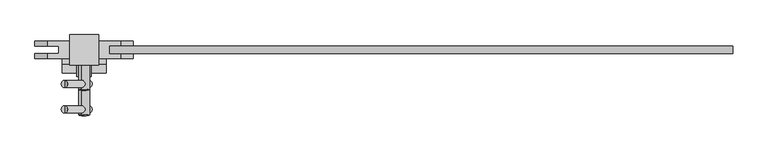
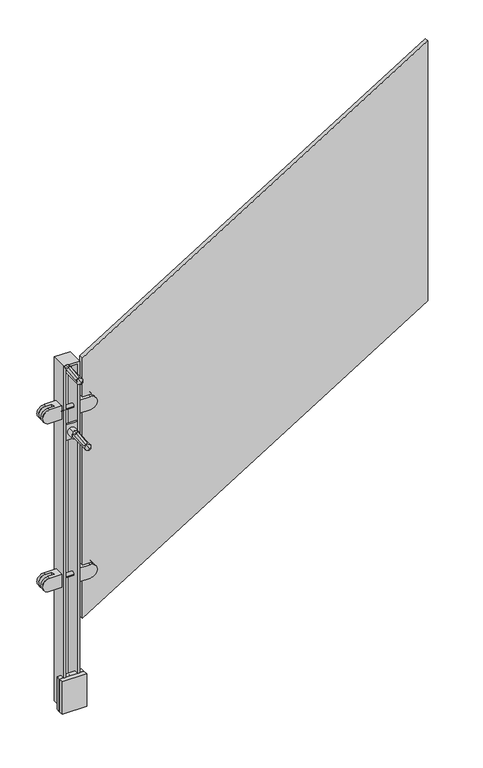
"""IFC4 building model written with IfcOpenShell, lengths in millimetres: proxy geometry, LIVERS_ICN - Glass Panel : LIVERS_ICN - Glass Panel."""

from ifc_helpers import new_model, si_unit, point, frame, origin, place, context, project, spatial, polyline, circle_curve, ellipse_curve, trimmed, outline, extrude, faceted_brep, source, transform, mapped, element, save
from ifc_brep_helpers import plane_surface, cylinder_surface, revolved_surface, advanced_brep


def building_element_proxy_19aa9ecd(model_context):
    return source(origin(), model_context, "Body", "SolidModel", [
        advanced_brep(
        [(37.9350002, 60.3249609, 643.1159168), (44.6649748, 60.3249609, 632.3457059), (51.3949495, 60.3249609, 621.5754951), (37.9350002, 38.0999609, 643.1159168), (51.3949495, 38.0999609, 621.5754951), (44.6649748, 38.0999609, 632.3457059)],
        [
            (0, 1),
            (1, 2),
            (2, 0, circle_curve(frame((44.6649748, 60.3249609, 632.3457059), z_axis=(0.0, 1.0, 0.0), x_axis=(0.5299192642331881, 0.0, -0.8480480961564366)), 12.7)),
            (0, 2, circle_curve(frame((44.6649748, 60.3249609, 632.3457059), z_axis=(0.0, 1.0, 0.0), x_axis=(0.5299192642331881, 0.0, -0.8480480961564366)), 12.7)),
            (3, 0),
            (2, 4),
            (4, 3, circle_curve(frame((44.6649748, 38.0999609, 632.3457059), z_axis=(0.0, 1.0, 0.0), x_axis=(0.5299192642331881, 0.0, -0.8480480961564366)), 12.7)),
            (3, 4, circle_curve(frame((44.6649748, 38.0999609, 632.3457059), z_axis=(0.0, 1.0, 0.0), x_axis=(0.5299192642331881, 0.0, -0.8480480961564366)), 12.7)),
            (5, 3),
            (4, 5),
        ],
        [
            plane_surface(frame((44.6649748, 60.3249609, 632.3457059), z_axis=(0.0, 1.0000000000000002, 0.0), x_axis=(0.5299192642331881, 0.0, -0.8480480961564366))),
            cylinder_surface(frame((44.6649748, 69.3828283, 632.3457059), z_axis=(0.0, -1.0, 0.0), x_axis=(0.5299192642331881, 0.0, -0.8480480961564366)), 12.7),
            plane_surface(frame((44.6649748, 38.0999609, 632.3457059), z_axis=(0.0, -1.0000000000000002, 0.0), x_axis=(0.5299192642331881, 0.0, -0.8480480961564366))),
        ],
        [
            (0, [[1, 2, 3]]),
            (0, [[-2, -1, 4]]),
            (1, [[5, -3, 6, 7]]),
            (1, [[-6, -4, -5, 8]]),
            (2, [[9, -7, 10]]),
            (2, [[-10, -8, -9]]),
        ],
    ),
        advanced_brep(
        [(10.3973046, -25.4004131, 687.1854419), (10.3973046, -19.0504161, 687.1854419), (10.3973046, -12.7004191, 687.1854419), (53.0007299, -25.4004131, 619.0057093), (53.0007299, -12.7004191, 619.0057093), (53.0007299, -19.0504161, 619.0057093)],
        [
            (0, 1),
            (1, 2),
            (2, 0, circle_curve(frame((10.3973046, -19.0504161, 687.1854419), z_axis=(-0.5299192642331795, 0.0, 0.848048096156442), x_axis=(0.0, 1.0, 0.0)), 6.349997)),
            (0, 2, circle_curve(frame((10.3973046, -19.0504161, 687.1854419), z_axis=(-0.5299192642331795, 0.0, 0.848048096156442), x_axis=(0.0, 1.0, 0.0)), 6.349997)),
            (3, 0),
            (2, 4),
            (4, 3, circle_curve(frame((53.0007299, -19.0504161, 619.0057093), z_axis=(-0.5299192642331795, 0.0, 0.848048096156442), x_axis=(0.0, 1.0, 0.0)), 6.349997)),
            (3, 4, circle_curve(frame((53.0007299, -19.0504161, 619.0057093), z_axis=(-0.5299192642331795, 0.0, 0.848048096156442), x_axis=(0.0, 1.0, 0.0)), 6.349997)),
            (5, 3),
            (4, 5),
        ],
        [
            plane_surface(frame((10.3973046, -19.0504161, 687.1854419), z_axis=(-0.5299192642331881, 0.0, 0.8480480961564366), x_axis=(0.0, 1.0, 0.0))),
            cylinder_surface(frame((3.0573892, -19.0504161, 698.931762), z_axis=(0.5299192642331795, 0.0, -0.848048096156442), x_axis=(0.0, 1.0, 0.0)), 6.349997),
            plane_surface(frame((53.0007299, -19.0504161, 619.0057093), z_axis=(0.5299192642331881, 0.0, -0.8480480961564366), x_axis=(0.0, 1.0, 0.0))),
        ],
        [
            (0, [[1, 2, 3]]),
            (0, [[-2, -1, 4]]),
            (1, [[5, -3, 6, 7]]),
            (1, [[-6, -4, -5, 8]]),
            (2, [[9, -7, 10]]),
            (2, [[-10, -8, -9]]),
        ],
    ),
        advanced_brep(
        [(44.6649748, -30.1375464, 632.3457059), (39.6174939, -28.5500464, 640.4233641), (49.7124558, -28.5500464, 624.2680478), (39.6174939, 38.0999609, 640.4233641), (44.6649748, 38.0999609, 632.3457059), (49.7124558, 38.0999609, 624.2680478)],
        [
            (0, 1, circle_curve(frame((44.6649748, -0.7687964, 632.3457059), z_axis=(-0.848048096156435, 0.0, -0.5299192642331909), x_axis=(0.0, 1.0, 0.0)), 29.36875)),
            (1, 2, circle_curve(frame((44.6649748, -28.5500464, 632.3457059), z_axis=(0.0, -1.0, 0.0), x_axis=(0.5299192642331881, 0.0, -0.8480480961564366)), 9.525)),
            (2, 0, circle_curve(frame((44.6649748, -0.7687964, 632.3457059), z_axis=(-0.8480480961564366, 0.0, -0.5299192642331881), x_axis=(0.0, 1.0, 0.0)), 29.36875)),
            (2, 1, circle_curve(frame((44.6649748, -28.5500464, 632.3457059), z_axis=(0.0, -1.0, 0.0), x_axis=(0.5299192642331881, 0.0, -0.8480480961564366)), 9.525)),
            (3, 4),
            (4, 5),
            (5, 3, circle_curve(frame((44.6649748, 38.0999609, 632.3457059), z_axis=(0.0, 1.0, 0.0), x_axis=(0.5299192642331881, 0.0, -0.8480480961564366)), 9.525)),
            (3, 5, circle_curve(frame((44.6649748, 38.0999609, 632.3457059), z_axis=(0.0, 1.0, 0.0), x_axis=(0.5299192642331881, 0.0, -0.8480480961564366)), 9.525)),
            (1, 3),
            (5, 2),
        ],
        [
            revolved_surface(trimmed(ellipse_curve(frame((44.6649748, -0.7687964, 632.3457059), z_axis=(-0.8480480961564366, 0.0, -0.5299192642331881), x_axis=(0.0, 1.0, 0.0)), 29.36875, 29.36875), [point((49.7124558, -28.5500464, 624.2680478))], [point((44.6649748, -30.1375464, 632.3457059))], True, "CARTESIAN"), (44.6649748, 30.3031204, 632.3457059), (0.0, -1.0, 0.0)),
            plane_surface(frame((44.6649748, 38.0999609, 632.3457059), z_axis=(0.0, 1.0000000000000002, 0.0), x_axis=(0.5299192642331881, 0.0, -0.8480480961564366))),
            cylinder_surface(frame((44.6649748, 30.3031204, 632.3457059), z_axis=(0.0, -1.0, 0.0), x_axis=(0.5299192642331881, 0.0, -0.8480480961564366)), 9.525),
        ],
        [
            (0, [[1, 2, 3]]),
            (0, [[-3, 4, -1]]),
            (1, [[5, 6, 7]]),
            (1, [[-6, -5, 8]]),
            (2, [[9, -7, 10, -2]]),
            (2, [[-10, -8, -9, -4]]),
        ],
    ),
        extrude(outline(polyline([(63.7149748, 66.6749609), (63.7149748, 60.3249609), (25.6149748, 60.3249609), (25.6149748, 66.6749609), (63.7149748, 66.6749609)])), frame((0.0, 0.0, 606.9457059), z_axis=(0.0, 0.0, 1.0), x_axis=(1.0, 0.0, 0.0)), (0.0, 0.0, 1.0), 50.8),
        advanced_brep(
        [(37.9350002, 15.875, 450.9648186), (44.6649748, 15.875, 440.1946077), (51.3949495, 15.875, 429.4243969), (37.9350002, -6.35, 450.9648186), (51.3949495, -6.35, 429.4243969), (44.6649748, -6.35, 440.1946077)],
        [
            (0, 1),
            (1, 2),
            (2, 0, circle_curve(frame((44.6649748, 15.875, 440.1946077), z_axis=(0.0, 1.0, 0.0), x_axis=(0.5299192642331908, 0.0, -0.848048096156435)), 12.7)),
            (0, 2, circle_curve(frame((44.6649748, 15.875, 440.1946077), z_axis=(0.0, 1.0, 0.0), x_axis=(0.5299192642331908, 0.0, -0.848048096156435)), 12.7)),
            (3, 0),
            (2, 4),
            (4, 3, circle_curve(frame((44.6649748, -6.35, 440.1946077), z_axis=(0.0, 1.0, 0.0), x_axis=(0.5299192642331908, 0.0, -0.848048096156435)), 12.7)),
            (3, 4, circle_curve(frame((44.6649748, -6.35, 440.1946077), z_axis=(0.0, 1.0, 0.0), x_axis=(0.5299192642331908, 0.0, -0.848048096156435)), 12.7)),
            (5, 3),
            (4, 5),
        ],
        [
            plane_surface(frame((44.6649748, 15.875, 440.1946077), z_axis=(0.0, 1.0000000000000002, 0.0), x_axis=(0.5299192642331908, 0.0, -0.848048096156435))),
            cylinder_surface(frame((44.6649748, 24.9328674, 440.1946077), z_axis=(0.0, -1.0, 0.0), x_axis=(0.5299192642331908, 0.0, -0.848048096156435)), 12.7),
            plane_surface(frame((44.6649748, -6.35, 440.1946077), z_axis=(0.0, -1.0000000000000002, 0.0), x_axis=(0.5299192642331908, 0.0, -0.848048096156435))),
        ],
        [
            (0, [[1, 2, 3]]),
            (0, [[-2, -1, 4]]),
            (1, [[5, -3, 6, 7]]),
            (1, [[-6, -4, -5, 8]]),
            (2, [[9, -7, 10]]),
            (2, [[-10, -8, -9]]),
        ],
    ),
        advanced_brep(
        [(10.3973046, -69.850374, 495.0343437), (10.3973046, -63.500377, 495.0343437), (10.3973046, -57.15038, 495.0343437), (53.0007299, -69.850374, 426.8546111), (53.0007299, -57.15038, 426.8546111), (53.0007299, -63.500377, 426.8546111)],
        [
            (0, 1),
            (1, 2),
            (2, 0, circle_curve(frame((10.3973046, -63.500377, 495.0343437), z_axis=(-0.5299192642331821, 0.0, 0.8480480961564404), x_axis=(0.0, 1.0, 0.0)), 6.349997)),
            (0, 2, circle_curve(frame((10.3973046, -63.500377, 495.0343437), z_axis=(-0.5299192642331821, 0.0, 0.8480480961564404), x_axis=(0.0, 1.0, 0.0)), 6.349997)),
            (3, 0),
            (2, 4),
            (4, 3, circle_curve(frame((53.0007299, -63.500377, 426.8546111), z_axis=(-0.5299192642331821, 0.0, 0.8480480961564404), x_axis=(0.0, 1.0, 0.0)), 6.349997)),
            (3, 4, circle_curve(frame((53.0007299, -63.500377, 426.8546111), z_axis=(-0.5299192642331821, 0.0, 0.8480480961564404), x_axis=(0.0, 1.0, 0.0)), 6.349997)),
            (5, 3),
            (4, 5),
        ],
        [
            plane_surface(frame((10.3973046, -63.500377, 495.0343437), z_axis=(-0.5299192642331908, 0.0, 0.848048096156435), x_axis=(0.0, 1.0, 0.0))),
            cylinder_surface(frame((3.0573892, -63.500377, 506.7806637), z_axis=(0.5299192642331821, 0.0, -0.8480480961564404), x_axis=(0.0, 1.0, 0.0)), 6.349997),
            plane_surface(frame((53.0007299, -63.500377, 426.8546111), z_axis=(0.5299192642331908, 0.0, -0.848048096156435), x_axis=(0.0, 1.0, 0.0))),
        ],
        [
            (0, [[1, 2, 3]]),
            (0, [[-2, -1, 4]]),
            (1, [[5, -3, 6, 7]]),
            (1, [[-6, -4, -5, 8]]),
            (2, [[9, -7, 10]]),
            (2, [[-10, -8, -9]]),
        ],
    ),
        advanced_brep(
        [(44.6649748, -74.5875073, 440.1946077), (39.6174939, -73.0000073, 448.2722658), (49.7124558, -73.0000073, 432.1169496), (39.6174939, -6.35, 448.2722658), (44.6649748, -6.35, 440.1946077), (49.7124558, -6.35, 432.1169496)],
        [
            (0, 1, circle_curve(frame((44.6649748, -45.2187573, 440.1946077), z_axis=(-0.8480480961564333, 0.0, -0.5299192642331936), x_axis=(0.0, 1.0, 0.0)), 29.36875)),
            (1, 2, circle_curve(frame((44.6649748, -73.0000073, 440.1946077), z_axis=(0.0, -1.0, 0.0), x_axis=(0.5299192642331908, 0.0, -0.848048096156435)), 9.525)),
            (2, 0, circle_curve(frame((44.6649748, -45.2187573, 440.1946077), z_axis=(-0.848048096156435, 0.0, -0.5299192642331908), x_axis=(0.0, 1.0, 0.0)), 29.36875)),
            (2, 1, circle_curve(frame((44.6649748, -73.0000073, 440.1946077), z_axis=(0.0, -1.0, 0.0), x_axis=(0.5299192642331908, 0.0, -0.848048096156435)), 9.525)),
            (3, 4),
            (4, 5),
            (5, 3, circle_curve(frame((44.6649748, -6.35, 440.1946077), z_axis=(0.0, 1.0, 0.0), x_axis=(0.5299192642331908, 0.0, -0.848048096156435)), 9.525)),
            (3, 5, circle_curve(frame((44.6649748, -6.35, 440.1946077), z_axis=(0.0, 1.0, 0.0), x_axis=(0.5299192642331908, 0.0, -0.848048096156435)), 9.525)),
            (1, 3),
            (5, 2),
        ],
        [
            revolved_surface(trimmed(ellipse_curve(frame((44.6649748, -45.2187573, 440.1946077), z_axis=(-0.848048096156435, 0.0, -0.5299192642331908), x_axis=(0.0, 1.0, 0.0)), 29.36875, 29.36875), [point((49.7124558, -73.0000073, 432.1169496))], [point((44.6649748, -74.5875073, 440.1946077))], True, "CARTESIAN"), (44.6649748, -14.1468405, 440.1946077), (0.0, -1.0, 0.0)),
            plane_surface(frame((44.6649748, -6.35, 440.1946077), z_axis=(0.0, 1.0000000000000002, 0.0), x_axis=(0.5299192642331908, 0.0, -0.848048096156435))),
            cylinder_surface(frame((44.6649748, -14.1468405, 440.1946077), z_axis=(0.0, -1.0, 0.0), x_axis=(0.5299192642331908, 0.0, -0.848048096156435)), 9.525),
        ],
        [
            (0, [[1, 2, 3]]),
            (0, [[-3, 4, -1]]),
            (1, [[5, 6, 7]]),
            (1, [[-6, -5, 8]]),
            (2, [[9, -7, 10, -2]]),
            (2, [[-10, -8, -9, -4]]),
        ],
    ),
        extrude(outline(polyline([(63.7149748, 22.225), (63.7149748, 15.875), (25.6149748, 15.875), (25.6149748, 22.225), (63.7149748, 22.225)])), frame((0.0, 0.0, 414.7946077), z_axis=(0.0, 0.0, 1.0), x_axis=(1.0, 0.0, 0.0)), (0.0, 0.0, 1.0), 50.8),
        advanced_brep(
        [(19.2649748, 55.5624457, -32.6354294), (19.2649748, 25.3999457, -32.6354294), (19.2649748, 25.3999457, -77.0854294), (19.2649748, 55.5624457, -77.0854294), (-18.9361191, 55.5624457, -77.0854294), (-18.9361191, 55.5624457, -32.6354294), (-18.9361191, 25.3999457, -77.0854294), (-18.9361191, 34.1311957, -77.0854294), (0.3930556, 34.1311957, -77.0854294), (0.3930556, 46.8311957, -77.0854294), (-18.9361191, 46.8311957, -77.0854294), (-18.9361191, 25.3999457, -32.6354294), (-18.9361191, 46.8311957, -32.6354294), (0.3930556, 46.8311957, -32.6354294), (0.3930556, 34.1311957, -32.6354294), (-18.9361191, 34.1311957, -32.6354294)],
        [
            (0, 1),
            (1, 2),
            (2, 3),
            (3, 0),
            (3, 4),
            (4, 5, circle_curve(frame((-18.9361191, 55.5624457, -54.8604294), z_axis=(0.0, 1.0, 0.0), x_axis=(0.0, 0.0, -1.0)), 22.225)),
            (5, 0),
            (2, 6),
            (6, 7),
            (7, 8),
            (8, 9),
            (9, 10),
            (10, 4),
            (1, 11),
            (11, 6, circle_curve(frame((-18.9361191, 25.3999457, -54.8604294), z_axis=(0.0, -1.0, 0.0), x_axis=(0.0, 0.0, -1.0)), 22.225)),
            (5, 12),
            (12, 13),
            (13, 14),
            (14, 15),
            (15, 11),
            (13, 9),
            (8, 14),
            (12, 10, circle_curve(frame((-18.9361191, 46.8311957, -54.8604294), z_axis=(0.0, -1.0, 0.0), x_axis=(0.0, 0.0, -1.0)), 22.225)),
            (7, 15, circle_curve(frame((-18.9361191, 34.1311957, -54.8604294), z_axis=(0.0, 1.0, 0.0), x_axis=(0.0, 0.0, -1.0)), 22.225)),
        ],
        [
            plane_surface(frame((19.2649748, 55.5624457, -77.0854294), z_axis=(1.0, 0.0, 0.0), x_axis=(0.0, 0.0, 1.0))),
            plane_surface(frame((-41.2381059, 55.5624457, -32.6354294), z_axis=(0.0, 1.0, 0.0), x_axis=(1.0, 0.0, 0.0))),
            plane_surface(frame((-41.2381059, 55.5624457, -77.0854294), z_axis=(0.0, 0.0, -1.0), x_axis=(1.0, 0.0, 0.0))),
            plane_surface(frame((-41.2381059, 25.3999457, -77.0854294), z_axis=(0.0, -1.0, 0.0), x_axis=(1.0, 0.0, 0.0))),
            plane_surface(frame((-41.2381059, 25.3999457, -32.6354294), z_axis=(0.0, 0.0, 1.0), x_axis=(1.0, 0.0, 0.0))),
            plane_surface(frame((0.3930556, 46.8311957, -77.0854294), z_axis=(-1.0, 0.0, 0.0), x_axis=(0.0, 0.0, 1.0))),
            plane_surface(frame((-41.2381059, 46.8311957, -32.6354294), z_axis=(0.0, -1.0, 0.0), x_axis=(1.0, 0.0, 0.0))),
            plane_surface(frame((-41.2381059, 34.1311957, -77.0854294), z_axis=(0.0, 1.0, 0.0), x_axis=(1.0, 0.0, 0.0))),
            cylinder_surface(frame((-18.9361191, 55.5624457, -54.8604294), z_axis=(0.0, 1.0, 0.0), x_axis=(0.0, 0.0, -1.0)), 22.225),
        ],
        [
            (0, [[1, 2, 3, 4]]),
            (1, [[-4, 5, 6, 7]]),
            (2, [[-3, 8, 9, 10, 11, 12, 13, -5]]),
            (3, [[-2, 14, 15, -8]]),
            (4, [[-1, -7, 16, 17, 18, 19, 20, -14]]),
            (5, [[21, -11, 22, -18]]),
            (6, [[-21, -17, 23, -12]]),
            (7, [[-22, -10, 24, -19]]),
            (8, [[-6, -13, -23, -16]]),
            (8, [[-9, -15, -20, -24]]),
        ],
    ),
        advanced_brep(
        [(70.0649748, 55.5624457, -32.6354294), (70.0649748, 55.5624457, -77.0854294), (70.0649748, 25.3999457, -77.0854294), (70.0649748, 25.3999457, -32.6354294), (108.2660688, 55.5624457, -32.6354294), (108.2660688, 55.5624457, -77.0854294), (108.2660688, 46.8311957, -77.0854294), (88.9368941, 46.8311957, -77.0854294), (88.9368941, 34.1311957, -77.0854294), (108.2660688, 34.1311957, -77.0854294), (108.2660688, 25.3999457, -77.0854294), (108.2660688, 25.3999457, -32.6354294), (108.2660688, 34.1311957, -32.6354294), (88.9368941, 34.1311957, -32.6354294), (88.9368941, 46.8311957, -32.6354294), (108.2660688, 46.8311957, -32.6354294)],
        [
            (0, 1),
            (1, 2),
            (2, 3),
            (3, 0),
            (0, 4),
            (4, 5, circle_curve(frame((108.2660688, 55.5624457, -54.8604294), z_axis=(0.0, 1.0, 0.0), x_axis=(0.0, 0.0, -1.0)), 22.225)),
            (5, 1),
            (5, 6),
            (6, 7),
            (7, 8),
            (8, 9),
            (9, 10),
            (10, 2),
            (10, 11, circle_curve(frame((108.2660688, 25.3999457, -54.8604294), z_axis=(0.0, -1.0, 0.0), x_axis=(0.0, 0.0, -1.0)), 22.225)),
            (11, 3),
            (11, 12),
            (12, 13),
            (13, 14),
            (14, 15),
            (15, 4),
            (13, 8),
            (7, 14),
            (6, 15, circle_curve(frame((108.2660688, 46.8311957, -54.8604294), z_axis=(0.0, -1.0, 0.0), x_axis=(0.0, 0.0, -1.0)), 22.225)),
            (12, 9, circle_curve(frame((108.2660688, 34.1311957, -54.8604294), z_axis=(0.0, 1.0, 0.0), x_axis=(0.0, 0.0, -1.0)), 22.225)),
        ],
        [
            plane_surface(frame((70.0649748, 55.5624457, -77.0854294), z_axis=(-1.0, 0.0, 0.0), x_axis=(0.0, 0.0, 1.0))),
            plane_surface(frame((130.5680556, 55.5624457, -32.6354294), z_axis=(0.0, 1.0, 0.0), x_axis=(-1.0, 0.0, 0.0))),
            plane_surface(frame((130.5680556, 55.5624457, -77.0854294), z_axis=(0.0, 0.0, -1.0), x_axis=(-1.0, 0.0, 0.0))),
            plane_surface(frame((130.5680556, 25.3999457, -77.0854294), z_axis=(0.0, -1.0, 0.0), x_axis=(-1.0, 0.0, 0.0))),
            plane_surface(frame((130.5680556, 25.3999457, -32.6354294), z_axis=(0.0, 0.0, 1.0), x_axis=(-1.0, 0.0, 0.0))),
            plane_surface(frame((88.9368941, 46.8311957, -77.0854294), z_axis=(1.0, 0.0, 0.0), x_axis=(0.0, 0.0, 1.0))),
            plane_surface(frame((130.5680556, 46.8311957, -32.6354294), z_axis=(0.0, -1.0, 0.0), x_axis=(-1.0, 0.0, 0.0))),
            plane_surface(frame((130.5680556, 34.1311957, -77.0854294), z_axis=(0.0, 1.0, 0.0), x_axis=(-1.0, 0.0, 0.0))),
            cylinder_surface(frame((108.2660688, 55.5624457, -54.8604294), z_axis=(0.0, 1.0, 0.0), x_axis=(0.0, 0.0, -1.0)), 22.225),
        ],
        [
            (0, [[1, 2, 3, 4]]),
            (1, [[5, 6, 7, -1]]),
            (2, [[-7, 8, 9, 10, 11, 12, 13, -2]]),
            (3, [[-13, 14, 15, -3]]),
            (4, [[-15, 16, 17, 18, 19, 20, -5, -4]]),
            (5, [[-18, 21, -10, 22]]),
            (6, [[-9, 23, -19, -22]]),
            (7, [[-17, 24, -11, -21]]),
            (8, [[-20, -23, -8, -6]]),
            (8, [[-24, -16, -14, -12]]),
        ],
    ),
        advanced_brep(
        [(19.2649748, 55.5624457, 526.1645706), (19.2649748, 25.3999457, 526.1645706), (19.2649748, 25.3999457, 481.7145706), (19.2649748, 55.5624457, 481.7145706), (-18.9361191, 55.5624457, 481.7145706), (-18.9361191, 55.5624457, 526.1645706), (-18.9361191, 25.3999457, 481.7145706), (-18.9361191, 34.1311957, 481.7145706), (0.3930556, 34.1311957, 481.7145706), (0.3930556, 46.8311957, 481.7145706), (-18.9361191, 46.8311957, 481.7145706), (-18.9361191, 25.3999457, 526.1645706), (-18.9361191, 46.8311957, 526.1645706), (0.3930556, 46.8311957, 526.1645706), (0.3930556, 34.1311957, 526.1645706), (-18.9361191, 34.1311957, 526.1645706)],
        [
            (0, 1),
            (1, 2),
            (2, 3),
            (3, 0),
            (3, 4),
            (4, 5, circle_curve(frame((-18.9361191, 55.5624457, 503.9395706), z_axis=(0.0, 1.0, 0.0), x_axis=(0.0, 0.0, -1.0)), 22.225)),
            (5, 0),
            (2, 6),
            (6, 7),
            (7, 8),
            (8, 9),
            (9, 10),
            (10, 4),
            (1, 11),
            (11, 6, circle_curve(frame((-18.9361191, 25.3999457, 503.9395706), z_axis=(0.0, -1.0, 0.0), x_axis=(0.0, 0.0, -1.0)), 22.225)),
            (5, 12),
            (12, 13),
            (13, 14),
            (14, 15),
            (15, 11),
            (13, 9),
            (8, 14),
            (12, 10, circle_curve(frame((-18.9361191, 46.8311957, 503.9395706), z_axis=(0.0, -1.0, 0.0), x_axis=(0.0, 0.0, -1.0)), 22.225)),
            (7, 15, circle_curve(frame((-18.9361191, 34.1311957, 503.9395706), z_axis=(0.0, 1.0, 0.0), x_axis=(0.0, 0.0, -1.0)), 22.225)),
        ],
        [
            plane_surface(frame((19.2649748, 55.5624457, 481.7145706), z_axis=(1.0, 0.0, 0.0), x_axis=(0.0, 0.0, 1.0))),
            plane_surface(frame((-41.2381059, 55.5624457, 526.1645706), z_axis=(0.0, 1.0, 0.0), x_axis=(1.0, 0.0, 0.0))),
            plane_surface(frame((-41.2381059, 55.5624457, 481.7145706), z_axis=(0.0, 0.0, -1.0), x_axis=(1.0, 0.0, 0.0))),
            plane_surface(frame((-41.2381059, 25.3999457, 481.7145706), z_axis=(0.0, -1.0, 0.0), x_axis=(1.0, 0.0, 0.0))),
            plane_surface(frame((-41.2381059, 25.3999457, 526.1645706), z_axis=(0.0, 0.0, 1.0), x_axis=(1.0, 0.0, 0.0))),
            plane_surface(frame((0.3930556, 46.8311957, 481.7145706), z_axis=(-1.0, 0.0, 0.0), x_axis=(0.0, 0.0, 1.0))),
            plane_surface(frame((-41.2381059, 46.8311957, 526.1645706), z_axis=(0.0, -1.0, 0.0), x_axis=(1.0, 0.0, 0.0))),
            plane_surface(frame((-41.2381059, 34.1311957, 481.7145706), z_axis=(0.0, 1.0, 0.0), x_axis=(1.0, 0.0, 0.0))),
            cylinder_surface(frame((-18.9361191, 55.5624457, 503.9395706), z_axis=(0.0, 1.0, 0.0), x_axis=(0.0, 0.0, -1.0)), 22.225),
        ],
        [
            (0, [[1, 2, 3, 4]]),
            (1, [[-4, 5, 6, 7]]),
            (2, [[-3, 8, 9, 10, 11, 12, 13, -5]]),
            (3, [[-2, 14, 15, -8]]),
            (4, [[-1, -7, 16, 17, 18, 19, 20, -14]]),
            (5, [[21, -11, 22, -18]]),
            (6, [[-21, -17, 23, -12]]),
            (7, [[-22, -10, 24, -19]]),
            (8, [[-6, -13, -23, -16]]),
            (8, [[-9, -15, -20, -24]]),
        ],
    ),
        advanced_brep(
        [(70.0649748, 55.5624457, 526.1645706), (70.0649748, 55.5624457, 481.7145706), (70.0649748, 25.3999457, 481.7145706), (70.0649748, 25.3999457, 526.1645706), (108.2660688, 55.5624457, 526.1645706), (108.2660688, 55.5624457, 481.7145706), (108.2660688, 46.8311957, 481.7145706), (88.9368941, 46.8311957, 481.7145706), (88.9368941, 34.1311957, 481.7145706), (108.2660688, 34.1311957, 481.7145706), (108.2660688, 25.3999457, 481.7145706), (108.2660688, 25.3999457, 526.1645706), (108.2660688, 34.1311957, 526.1645706), (88.9368941, 34.1311957, 526.1645706), (88.9368941, 46.8311957, 526.1645706), (108.2660688, 46.8311957, 526.1645706)],
        [
            (0, 1),
            (1, 2),
            (2, 3),
            (3, 0),
            (0, 4),
            (4, 5, circle_curve(frame((108.2660688, 55.5624457, 503.9395706), z_axis=(0.0, 1.0, 0.0), x_axis=(0.0, 0.0, -1.0)), 22.225)),
            (5, 1),
            (5, 6),
            (6, 7),
            (7, 8),
            (8, 9),
            (9, 10),
            (10, 2),
            (10, 11, circle_curve(frame((108.2660688, 25.3999457, 503.9395706), z_axis=(0.0, -1.0, 0.0), x_axis=(0.0, 0.0, -1.0)), 22.225)),
            (11, 3),
            (11, 12),
            (12, 13),
            (13, 14),
            (14, 15),
            (15, 4),
            (13, 8),
            (7, 14),
            (6, 15, circle_curve(frame((108.2660688, 46.8311957, 503.9395706), z_axis=(0.0, -1.0, 0.0), x_axis=(0.0, 0.0, -1.0)), 22.225)),
            (12, 9, circle_curve(frame((108.2660688, 34.1311957, 503.9395706), z_axis=(0.0, 1.0, 0.0), x_axis=(0.0, 0.0, -1.0)), 22.225)),
        ],
        [
            plane_surface(frame((70.0649748, 55.5624457, 481.7145706), z_axis=(-1.0, 0.0, 0.0), x_axis=(0.0, 0.0, 1.0))),
            plane_surface(frame((130.5680556, 55.5624457, 526.1645706), z_axis=(0.0, 1.0, 0.0), x_axis=(-1.0, 0.0, 0.0))),
            plane_surface(frame((130.5680556, 55.5624457, 481.7145706), z_axis=(0.0, 0.0, -1.0), x_axis=(-1.0, 0.0, 0.0))),
            plane_surface(frame((130.5680556, 25.3999457, 481.7145706), z_axis=(0.0, -1.0, 0.0), x_axis=(-1.0, 0.0, 0.0))),
            plane_surface(frame((130.5680556, 25.3999457, 526.1645706), z_axis=(0.0, 0.0, 1.0), x_axis=(-1.0, 0.0, 0.0))),
            plane_surface(frame((88.9368941, 46.8311957, 481.7145706), z_axis=(1.0, 0.0, 0.0), x_axis=(0.0, 0.0, 1.0))),
            plane_surface(frame((130.5680556, 46.8311957, 526.1645706), z_axis=(0.0, -1.0, 0.0), x_axis=(-1.0, 0.0, 0.0))),
            plane_surface(frame((130.5680556, 34.1311957, 481.7145706), z_axis=(0.0, 1.0, 0.0), x_axis=(-1.0, 0.0, 0.0))),
            cylinder_surface(frame((108.2660688, 55.5624457, 503.9395706), z_axis=(0.0, 1.0, 0.0), x_axis=(0.0, 0.0, -1.0)), 22.225),
        ],
        [
            (0, [[1, 2, 3, 4]]),
            (1, [[5, 6, 7, -1]]),
            (2, [[-7, 8, 9, 10, 11, 12, 13, -2]]),
            (3, [[-13, 14, 15, -3]]),
            (4, [[-15, 16, 17, 18, 19, 20, -5, -4]]),
            (5, [[-18, 21, -10, 22]]),
            (6, [[-9, 23, -19, -22]]),
            (7, [[-17, 24, -11, -21]]),
            (8, [[-20, -23, -8, -6]]),
            (8, [[-24, -16, -14, -12]]),
        ],
    ),
        advanced_brep(
        [(44.6649748, 28.575, -471.5264629), (44.6649748, 29.7562407, -471.5264629), (44.6649748, 29.7562407, -449.3014517), (44.6649748, 28.575, -449.3014517), (44.6649748, 28.575, -460.4139573), (44.6649748, 32.325, -466.0264629), (44.6649748, 30.8816229, -460.4139573), (44.6649748, 32.325, -454.8014517), (44.6649748, 34.8740117, -466.0264629), (44.6649748, 34.8740117, -454.8014517), (44.6649748, 33.8500285, -468.9744693), (44.6649748, 33.8500285, -451.8534453), (44.6649748, 31.8562692, -470.7327452), (44.6649748, 31.8562692, -450.0951694)],
        [
            (0, 1),
            (1, 2, circle_curve(frame((44.6649748, 29.7562407, -460.4139573), z_axis=(0.0, -1.0, 0.0), x_axis=(0.0, 0.0, 1.0)), 11.1125056)),
            (2, 3),
            (3, 0, circle_curve(frame((44.6649748, 28.575, -460.4139573), z_axis=(0.0, 1.0, 0.0), x_axis=(0.0, 0.0, 1.0)), 11.1125056)),
            (2, 1, circle_curve(frame((44.6649748, 29.7562407, -460.4139573), z_axis=(0.0, -1.0, 0.0), x_axis=(0.0, 0.0, 1.0)), 11.1125056)),
            (0, 3, circle_curve(frame((44.6649748, 28.575, -460.4139573), z_axis=(0.0, 1.0, 0.0), x_axis=(0.0, 0.0, 1.0)), 11.1125056)),
            (4, 0),
            (3, 4),
            (5, 6),
            (6, 7),
            (7, 5, circle_curve(frame((44.6649748, 32.325, -460.4139573), z_axis=(0.0, 1.0, 0.0), x_axis=(0.0, 0.0, 1.0)), 5.6125056)),
            (5, 7, circle_curve(frame((44.6649748, 32.325, -460.4139573), z_axis=(0.0, 1.0, 0.0), x_axis=(0.0, 0.0, 1.0)), 5.6125056)),
            (8, 5),
            (7, 9),
            (9, 8, circle_curve(frame((44.6649748, 34.8740117, -460.4139573), z_axis=(0.0, 1.0, 0.0), x_axis=(0.0, 0.0, 1.0)), 5.6125056)),
            (8, 9, circle_curve(frame((44.6649748, 34.8740117, -460.4139573), z_axis=(0.0, 1.0, 0.0), x_axis=(0.0, 0.0, 1.0)), 5.6125056)),
            (10, 8, circle_curve(frame((44.6649748, 31.75, -466.593187), z_axis=(1.0, 0.0, 0.0), x_axis=(0.0, -1.0, 0.0)), 3.175)),
            (9, 11, circle_curve(frame((44.6649748, 31.75, -454.2347276), z_axis=(1.0, 0.0, 0.0), x_axis=(0.0, -1.0, 0.0)), 3.175)),
            (11, 10, circle_curve(frame((44.6649748, 33.8500285, -460.4139573), z_axis=(0.0, 1.0, 0.0), x_axis=(0.0, 0.0, 1.0)), 8.560512)),
            (10, 11, circle_curve(frame((44.6649748, 33.8500285, -460.4139573), z_axis=(0.0, 1.0, 0.0), x_axis=(0.0, 0.0, 1.0)), 8.560512)),
            (12, 10),
            (11, 13),
            (13, 12, circle_curve(frame((44.6649748, 31.8562692, -460.4139573), z_axis=(0.0, 1.0, 0.0), x_axis=(0.0, 0.0, 1.0)), 10.3187879)),
            (12, 13, circle_curve(frame((44.6649748, 31.8562692, -460.4139573), z_axis=(0.0, 1.0, 0.0), x_axis=(0.0, 0.0, 1.0)), 10.3187879)),
            (1, 12, circle_curve(frame((44.6649748, 29.7562407, -468.3514629), z_axis=(1.0, 0.0, 0.0), x_axis=(0.0, -1.0, 0.0)), 3.175)),
            (13, 2, circle_curve(frame((44.6649748, 29.7562407, -452.4764517), z_axis=(1.0, 0.0, 0.0), x_axis=(0.0, -1.0, 0.0)), 3.175)),
        ],
        [
            cylinder_surface(frame((44.6649748, 28.575, -460.4139573), z_axis=(0.0, -1.0, 0.0), x_axis=(0.0, 0.0, 1.0)), 11.1125056),
            plane_surface(frame((44.6649748, 28.575, -460.4139573), z_axis=(0.0, -1.0, 0.0), x_axis=(0.0, 0.0, 1.0))),
            revolved_surface(polyline([(44.6649748, 30.8816229, -460.4139573), (44.6649748, 32.325, -454.8014517)]), (44.6649748, 28.575, -460.4139573), (0.0, -1.0, 0.0)),
            revolved_surface(polyline([(44.6649748, 32.325, -454.8014517), (44.6649748, 34.8740117, -454.8014517)]), (44.6649748, 28.575, -460.4139573), (0.0, -1.0, 0.0)),
            revolved_surface(trimmed(ellipse_curve(frame((44.6649748, 31.75, -454.2347276), z_axis=(1.0, 0.0, 0.0), x_axis=(0.0, -1.0, 0.0)), 3.175, 3.175), [point((44.6649748, 34.8740117, -454.8014517))], [point((44.6649748, 33.8500285, -451.8534453))], True, "CARTESIAN"), (44.6649748, 28.575, -460.4139573), (0.0, -1.0, 0.0)),
            revolved_surface(polyline([(44.6649748, 33.8500285, -451.8534453), (44.6649748, 31.8562692, -450.0951694)]), (44.6649748, 28.575, -460.4139573), (0.0, -1.0, 0.0)),
            revolved_surface(trimmed(ellipse_curve(frame((44.6649748, 29.7562407, -452.4764517), z_axis=(1.0, 0.0, 0.0), x_axis=(0.0, -1.0, 0.0)), 3.175, 3.175), [point((44.6649748, 31.8562692, -450.0951694))], [point((44.6649748, 29.7562407, -449.3014517))], True, "CARTESIAN"), (44.6649748, 28.575, -460.4139573), (0.0, -1.0, 0.0)),
        ],
        [
            (0, [[1, 2, 3, 4]]),
            (0, [[-3, 5, -1, 6]]),
            (1, [[7, -4, 8]]),
            (1, [[-8, -6, -7]]),
            (2, [[9, 10, 11]]),
            (2, [[-10, -9, 12]]),
            (3, [[13, -11, 14, 15]]),
            (3, [[-14, -12, -13, 16]]),
            (4, [[17, -15, 18, 19]]),
            (4, [[-18, -16, -17, 20]]),
            (5, [[21, -19, 22, 23]]),
            (5, [[-22, -20, -21, 24]]),
            (6, [[25, -23, 26, -2]]),
            (6, [[-26, -24, -25, -5]]),
        ],
    ),
        advanced_brep(
        [(44.6649748, 28.575, -401.6764629), (44.6649748, 29.7562407, -401.6764629), (44.6649748, 29.7562407, -379.4514517), (44.6649748, 28.575, -379.4514517), (44.6649748, 28.575, -390.5639573), (44.6649748, 33.8500285, -399.1244693), (44.6649748, 34.8740117, -396.1764629), (44.6649748, 34.8740117, -384.9514517), (44.6649748, 33.8500285, -382.0034453), (44.6649748, 31.8562692, -400.8827452), (44.6649748, 31.8562692, -380.2451694), (44.6649748, 32.325, -396.1764629), (44.6649748, 30.8816229, -390.5639573), (44.6649748, 32.325, -384.9514517)],
        [
            (0, 1),
            (1, 2, circle_curve(frame((44.6649748, 29.7562407, -390.5639573), z_axis=(0.0, -1.0, 0.0), x_axis=(0.0, 0.0, 1.0)), 11.1125056)),
            (2, 3),
            (3, 0, circle_curve(frame((44.6649748, 28.575, -390.5639573), z_axis=(0.0, 1.0, 0.0), x_axis=(0.0, 0.0, 1.0)), 11.1125056)),
            (2, 1, circle_curve(frame((44.6649748, 29.7562407, -390.5639573), z_axis=(0.0, -1.0, 0.0), x_axis=(0.0, 0.0, 1.0)), 11.1125056)),
            (0, 3, circle_curve(frame((44.6649748, 28.575, -390.5639573), z_axis=(0.0, 1.0, 0.0), x_axis=(0.0, 0.0, 1.0)), 11.1125056)),
            (4, 0),
            (3, 4),
            (5, 6, circle_curve(frame((44.6649748, 31.75, -396.743187), z_axis=(1.0, 0.0, 0.0), x_axis=(0.0, -1.0, 0.0)), 3.175)),
            (6, 7, circle_curve(frame((44.6649748, 34.8740117, -390.5639573), z_axis=(0.0, -1.0, 0.0), x_axis=(0.0, 0.0, 1.0)), 5.6125056)),
            (7, 8, circle_curve(frame((44.6649748, 31.75, -384.3847276), z_axis=(1.0, 0.0, 0.0), x_axis=(0.0, -1.0, 0.0)), 3.175)),
            (8, 5, circle_curve(frame((44.6649748, 33.8500285, -390.5639573), z_axis=(0.0, 1.0, 0.0), x_axis=(0.0, 0.0, 1.0)), 8.560512)),
            (7, 6, circle_curve(frame((44.6649748, 34.8740117, -390.5639573), z_axis=(0.0, -1.0, 0.0), x_axis=(0.0, 0.0, 1.0)), 5.6125056)),
            (5, 8, circle_curve(frame((44.6649748, 33.8500285, -390.5639573), z_axis=(0.0, 1.0, 0.0), x_axis=(0.0, 0.0, 1.0)), 8.560512)),
            (9, 5),
            (8, 10),
            (10, 9, circle_curve(frame((44.6649748, 31.8562692, -390.5639573), z_axis=(0.0, 1.0, 0.0), x_axis=(0.0, 0.0, 1.0)), 10.3187879)),
            (9, 10, circle_curve(frame((44.6649748, 31.8562692, -390.5639573), z_axis=(0.0, 1.0, 0.0), x_axis=(0.0, 0.0, 1.0)), 10.3187879)),
            (1, 9, circle_curve(frame((44.6649748, 29.7562407, -398.5014629), z_axis=(1.0, 0.0, 0.0), x_axis=(0.0, -1.0, 0.0)), 3.175)),
            (10, 2, circle_curve(frame((44.6649748, 29.7562407, -382.6264517), z_axis=(1.0, 0.0, 0.0), x_axis=(0.0, -1.0, 0.0)), 3.175)),
            (11, 12),
            (12, 13),
            (13, 11, circle_curve(frame((44.6649748, 32.325, -390.5639573), z_axis=(0.0, 1.0, 0.0), x_axis=(0.0, 0.0, 1.0)), 5.6125056)),
            (11, 13, circle_curve(frame((44.6649748, 32.325, -390.5639573), z_axis=(0.0, 1.0, 0.0), x_axis=(0.0, 0.0, 1.0)), 5.6125056)),
            (6, 11),
            (13, 7),
        ],
        [
            cylinder_surface(frame((44.6649748, 28.575, -390.5639573), z_axis=(0.0, -1.0, 0.0), x_axis=(0.0, 0.0, 1.0)), 11.1125056),
            plane_surface(frame((44.6649748, 28.575, -390.5639573), z_axis=(0.0, -1.0, 0.0), x_axis=(0.0, 0.0, 1.0))),
            revolved_surface(trimmed(ellipse_curve(frame((44.6649748, 31.75, -384.3847276), z_axis=(1.0, 0.0, 0.0), x_axis=(0.0, -1.0, 0.0)), 3.175, 3.175), [point((44.6649748, 34.8740117, -384.9514517))], [point((44.6649748, 33.8500285, -382.0034453))], True, "CARTESIAN"), (44.6649748, 28.575, -390.5639573), (0.0, -1.0, 0.0)),
            revolved_surface(polyline([(44.6649748, 33.8500285, -382.0034453), (44.6649748, 31.8562692, -380.2451694)]), (44.6649748, 28.575, -390.5639573), (0.0, -1.0, 0.0)),
            revolved_surface(trimmed(ellipse_curve(frame((44.6649748, 29.7562407, -382.6264517), z_axis=(1.0, 0.0, 0.0), x_axis=(0.0, -1.0, 0.0)), 3.175, 3.175), [point((44.6649748, 31.8562692, -380.2451694))], [point((44.6649748, 29.7562407, -379.4514517))], True, "CARTESIAN"), (44.6649748, 28.575, -390.5639573), (0.0, -1.0, 0.0)),
            revolved_surface(polyline([(44.6649748, 30.8816229, -390.5639573), (44.6649748, 32.325, -384.9514517)]), (44.6649748, 28.575, -390.5639573), (0.0, -1.0, 0.0)),
            revolved_surface(polyline([(44.6649748, 32.325, -384.9514517), (44.6649748, 34.8740117, -384.9514517)]), (44.6649748, 28.575, -390.5639573), (0.0, -1.0, 0.0)),
        ],
        [
            (0, [[1, 2, 3, 4]]),
            (0, [[-3, 5, -1, 6]]),
            (1, [[7, -4, 8]]),
            (1, [[-8, -6, -7]]),
            (2, [[9, 10, 11, 12]]),
            (2, [[-11, 13, -9, 14]]),
            (3, [[15, -12, 16, 17]]),
            (3, [[-16, -14, -15, 18]]),
            (4, [[19, -17, 20, -2]]),
            (4, [[-20, -18, -19, -5]]),
            (5, [[21, 22, 23]]),
            (5, [[-22, -21, 24]]),
            (6, [[25, -23, 26, -10]]),
            (6, [[-26, -24, -25, -13]]),
        ],
    ),
        faceted_brep([(70.0649748, 14.2874305, 664.0957059), (70.0649748, 14.2874305, -479.4639573), (70.0649748, 15.875, -479.4639573), (70.0649748, 15.875, -371.5139573), (70.0649748, 28.575, -371.5139573), (70.0649748, 28.575, -479.4639573), (70.0649748, 66.6749609, -479.4639573), (70.0649748, 66.6749609, 664.0957059), (63.7149748, 66.6749609, -479.4639573), (63.7149748, 28.575, -479.4639573), (63.7149748, 28.575, -371.5139573), (63.7149748, 15.875, -371.5139573), (63.7149748, 15.875, -479.4639573), (63.7149748, 14.2874305, -479.4639573), (63.7149748, 14.2874305, 657.7457059), (63.7149748, 66.6749609, 657.7457059), (6.5649748, 28.575, -479.4639573), (19.2649748, 28.575, -479.4639573), (19.2649748, 66.6749609, -479.4639573), (25.6149748, 66.6749609, -479.4639573), (25.6149748, 28.575, -479.4639573), (82.7649748, 28.575, -479.4639573), (82.7649748, 15.875, -479.4639573), (25.6149748, 15.875, -479.4639573), (25.6149748, 14.2874305, -479.4639573), (19.2649748, 14.2874305, -479.4639573), (19.2649748, 15.875, -479.4639573), (6.5649748, 15.875, -479.4639573), (19.2649748, 14.2874305, 664.0957059), (25.6149748, 14.2874305, 657.7457059), (19.2649748, 66.6749609, 664.0957059), (25.6149748, 66.6749609, 657.7457059), (25.6149748, 15.875, -371.5139573), (25.6149748, 28.575, -371.5139573), (19.2649748, 28.575, -371.5139573), (19.2649748, 15.875, -371.5139573), (82.7649748, 28.575, -371.5139573), (6.5649748, 28.575, -371.5139573), (6.5649748, 15.875, -371.5139573), (82.7649748, 15.875, -371.5139573)], [[[0, 1, 2, 3, 4, 5, 6, 7]], [[8, 9, 10, 11, 12, 13, 14, 15]], [[16, 17, 18, 19, 20, 9, 8, 6, 5, 21, 22, 2, 1, 13, 12, 23, 24, 25, 26, 27]], [[1, 0, 28, 25, 24, 29, 14, 13]], [[7, 30, 28, 0]], [[8, 15, 31, 19, 18, 30, 7, 6]], [[24, 23, 32, 33, 20, 19, 31, 29]], [[14, 29, 31, 15]], [[30, 18, 17, 34, 35, 26, 25, 28]], [[20, 33, 10, 9]], [[21, 5, 4, 36]], [[37, 34, 17, 16]], [[12, 11, 32, 23]], [[27, 26, 35, 38]], [[39, 3, 2, 22]], [[36, 39, 22, 21]], [[33, 32, 11, 10]], [[36, 4, 3, 39]], [[38, 35, 34, 37]], [[16, 27, 38, 37]]]),
        extrude(outline(polyline([(82.7649748, 15.875), (82.7649748, 0.0), (6.5649748, 0.0), (6.5649748, 15.875), (82.7649748, 15.875)])), frame((0.0, 0.0, -479.4639573), z_axis=(0.0, 0.0, 1.0), x_axis=(1.0, 0.0, 0.0)), (0.0, 0.0, 1.0), 107.95),
        advanced_brep(
        [(25.6149748, 41.2749421, -54.8604238), (25.6149748, 47.5989918, -54.8604238), (25.6149748, 34.9508924, -54.8604238), (63.7289611, 47.5989918, -54.8604238), (63.7289611, 41.2749421, -54.8604238), (63.7289611, 34.9508924, -54.8604238)],
        [
            (0, 1),
            (1, 2, circle_curve(frame((25.6149748, 41.2749421, -54.8604238), z_axis=(-1.0, 0.0, 0.0), x_axis=(0.0, -1.0, 0.0)), 6.3240497)),
            (2, 0),
            (2, 1, circle_curve(frame((25.6149748, 41.2749421, -54.8604238), z_axis=(-1.0, 0.0, 0.0), x_axis=(0.0, -1.0, 0.0)), 6.3240497)),
            (3, 4),
            (4, 5),
            (5, 3, circle_curve(frame((63.7289611, 41.2749421, -54.8604238), z_axis=(1.0, 0.0, 0.0), x_axis=(0.0, -1.0, 0.0)), 6.3240497)),
            (3, 5, circle_curve(frame((63.7289611, 41.2749421, -54.8604238), z_axis=(1.0, 0.0, 0.0), x_axis=(0.0, -1.0, 0.0)), 6.3240497)),
            (1, 3),
            (5, 2),
        ],
        [
            plane_surface(frame((25.6149748, 41.2749421, -54.8604238), z_axis=(-1.0, 0.0, 0.0), x_axis=(0.0, -1.0, 0.0))),
            plane_surface(frame((63.7289611, 41.2749421, -54.8604238), z_axis=(1.0, 0.0, 0.0), x_axis=(0.0, -1.0, 0.0))),
            cylinder_surface(frame((25.6149748, 41.2749421, -54.8604238), z_axis=(-1.0, 0.0, 0.0), x_axis=(0.0, -1.0, 0.0)), 6.3240497),
        ],
        [
            (0, [[1, 2, 3]]),
            (0, [[-3, 4, -1]]),
            (1, [[5, 6, 7]]),
            (1, [[-6, -5, 8]]),
            (2, [[9, -7, 10, -2]]),
            (2, [[-10, -8, -9, -4]]),
        ],
    ),
        advanced_brep(
        [(25.6149748, 41.2749421, 503.9395762), (25.6149748, 47.5989918, 503.9395762), (25.6149748, 34.9508924, 503.9395762), (63.7289611, 47.5989918, 503.9395762), (63.7289611, 41.2749421, 503.9395762), (63.7289611, 34.9508924, 503.9395762)],
        [
            (0, 1),
            (1, 2, circle_curve(frame((25.6149748, 41.2749421, 503.9395762), z_axis=(-1.0, 0.0, 0.0), x_axis=(0.0, -1.0, 0.0)), 6.3240497)),
            (2, 0),
            (2, 1, circle_curve(frame((25.6149748, 41.2749421, 503.9395762), z_axis=(-1.0, 0.0, 0.0), x_axis=(0.0, -1.0, 0.0)), 6.3240497)),
            (3, 4),
            (4, 5),
            (5, 3, circle_curve(frame((63.7289611, 41.2749421, 503.9395762), z_axis=(1.0, 0.0, 0.0), x_axis=(0.0, -1.0, 0.0)), 6.3240497)),
            (3, 5, circle_curve(frame((63.7289611, 41.2749421, 503.9395762), z_axis=(1.0, 0.0, 0.0), x_axis=(0.0, -1.0, 0.0)), 6.3240497)),
            (1, 3),
            (5, 2),
        ],
        [
            plane_surface(frame((25.6149748, 41.2749421, 503.9395762), z_axis=(-1.0, 0.0, 0.0), x_axis=(0.0, -1.0, 0.0))),
            plane_surface(frame((63.7289611, 41.2749421, 503.9395762), z_axis=(1.0, 0.0, 0.0), x_axis=(0.0, -1.0, 0.0))),
            cylinder_surface(frame((25.6149748, 41.2749421, 503.9395762), z_axis=(-1.0, 0.0, 0.0), x_axis=(0.0, -1.0, 0.0)), 6.3240497),
        ],
        [
            (0, [[1, 2, 3]]),
            (0, [[-3, 4, -1]]),
            (1, [[5, 6, 7]]),
            (1, [[-6, -5, 8]]),
            (2, [[9, -7, 10, -2]]),
            (2, [[-10, -8, -9, -4]]),
        ],
    ),
        extrude(outline(polyline([(466.2245671, 1174.9280808), (1329.8245671, 1174.9280808), (655.1261889, 88.9368941), (-208.4738111, 88.9368941), (466.2245671, 1174.9280808)])), frame((0.0, 34.1309994, 0.0), z_axis=(0.0, 1.0, 0.0), x_axis=(0.0, 0.0, 1.0)), (0.0, 0.0, 1.0), 12.7001962),
    ])


if __name__ == "__main__":
    model = new_model("IFC4")
    model_context = context("Model", 3, world=origin())
    ifc_project = project(units=[si_unit("LENGTHUNIT", "METRE", prefix="MILLI")], contexts=[model_context])
    site = spatial("IfcSite", under=ifc_project)
    building = spatial("IfcBuilding", under=site)
    placement = place(None, origin())
    building_element_proxy_shape = building_element_proxy_19aa9ecd(model_context)
    element("IfcBuildingElementProxy", 1, Name="LIVERS_ICN - Glass Panel : LIVERS_ICN - Glass Panel", ObjectType="LIVERS_ICN - Glass Panel : LIVERS_ICN - Glass Panel", at=placement, inside=building, context=model_context, shape_type="MappedRepresentation", body=[
        mapped(building_element_proxy_shape, transform((0.0, 0.0, 0.0), x_axis=(1.0, 0.0, 0.0), y_axis=(0.0, 1.0, 0.0), z_axis=(0.0, 0.0, 1.0))),
    ])
    save(model, "model.ifc")
